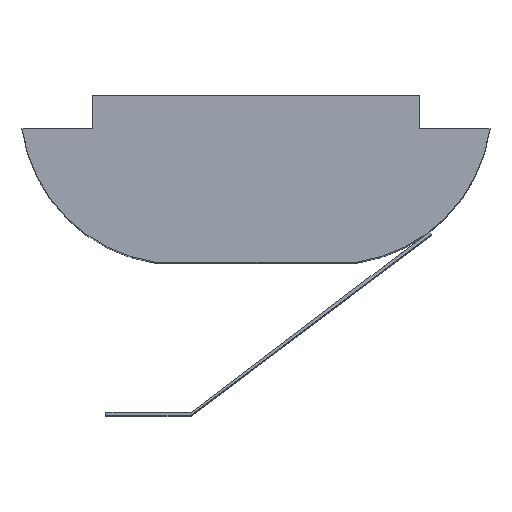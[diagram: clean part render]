
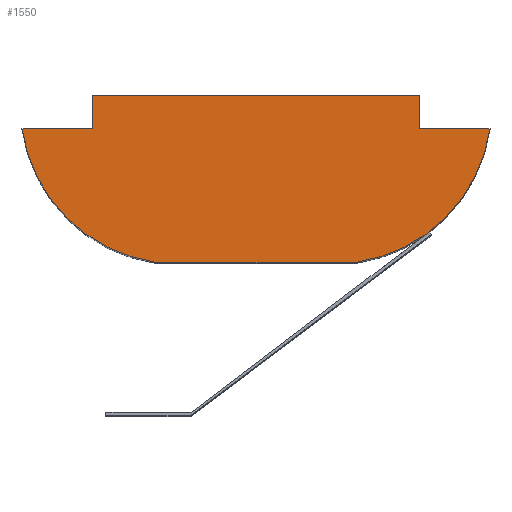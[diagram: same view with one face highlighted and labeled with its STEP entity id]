
A CAD part, top view. The second image highlights one B-rep face of the part: STEP entity #1550.
In plain terms, the highlighted planar face has unit normal (0, 0, 1).
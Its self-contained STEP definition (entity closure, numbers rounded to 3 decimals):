
#16 = VERTEX_POINT ( 'NONE', #1575 ) ;
#43 = EDGE_CURVE ( 'NONE', #1197, #252, #942, .T. ) ;
#44 = VECTOR ( 'NONE', #194, 1000. ) ;
#47 = DIRECTION ( 'NONE',  ( 0., 0., -1. ) ) ;
#105 = CIRCLE ( 'NONE', #1211, 4.722 ) ;
#127 = VECTOR ( 'NONE', #1261, 1000. ) ;
#137 = EDGE_CURVE ( 'NONE', #16, #252, #1418, .T. ) ;
#194 = DIRECTION ( 'NONE',  ( 1., 0., 0. ) ) ;
#232 = CARTESIAN_POINT ( 'NONE',  ( 4.9, -1., 10. ) ) ;
#243 = CARTESIAN_POINT ( 'NONE',  ( 2.326, -0.326, 10. ) ) ;
#252 = VERTEX_POINT ( 'NONE', #372 ) ;
#310 = DIRECTION ( 'NONE',  ( -1., 0., 0. ) ) ;
#315 = ORIENTED_EDGE ( 'NONE', *, *, #1122, .F. ) ;
#358 = ORIENTED_EDGE ( 'NONE', *, *, #574, .T. ) ;
#372 = CARTESIAN_POINT ( 'NONE',  ( 3., -5., 10. ) ) ;
#398 = CARTESIAN_POINT ( 'NONE',  ( 4.9, -1., 10. ) ) ;
#441 = ORIENTED_EDGE ( 'NONE', *, *, #1557, .T. ) ;
#446 = PLANE ( 'NONE',  #1057 ) ;
#516 = CARTESIAN_POINT ( 'NONE',  ( 4.9, 0., 10. ) ) ;
#550 = ORIENTED_EDGE ( 'NONE', *, *, #814, .T. ) ;
#560 = CARTESIAN_POINT ( 'NONE',  ( -7., -1., 10. ) ) ;
#567 = AXIS2_PLACEMENT_3D ( 'NONE', #780, #582, #753 ) ;
#574 = EDGE_CURVE ( 'NONE', #1174, #1068, #1517, .T. ) ;
#582 = DIRECTION ( 'NONE',  ( 0., 0., -1. ) ) ;
#597 = ORIENTED_EDGE ( 'NONE', *, *, #43, .F. ) ;
#598 = ORIENTED_EDGE ( 'NONE', *, *, #137, .T. ) ;
#603 = LINE ( 'NONE', #398, #44 ) ;
#606 = DIRECTION ( 'NONE',  ( 1., 0., 0. ) ) ;
#715 = LINE ( 'NONE', #516, #787 ) ;
#753 = DIRECTION ( 'NONE',  ( -1., 0., 0. ) ) ;
#761 = EDGE_LOOP ( 'NONE', ( #1780, #1119, #358, #550, #441, #598, #597, #315 ) ) ;
#780 = CARTESIAN_POINT ( 'NONE',  ( 2.326, -0.326, 10. ) ) ;
#787 = VECTOR ( 'NONE', #310, 1000. ) ;
#806 = DIRECTION ( 'NONE',  ( 0., 0., 1. ) ) ;
#814 = EDGE_CURVE ( 'NONE', #1068, #1603, #1652, .T. ) ;
#942 = CIRCLE ( 'NONE', #567, 4.722 ) ;
#950 = EDGE_CURVE ( 'NONE', #1622, #1174, #715, .T. ) ;
#959 = CARTESIAN_POINT ( 'NONE',  ( 4.9, 0., 10. ) ) ;
#1003 = CARTESIAN_POINT ( 'NONE',  ( -2.326, -0.326, 10. ) ) ;
#1010 = DIRECTION ( 'NONE',  ( 1., 0., 0. ) ) ;
#1057 = AXIS2_PLACEMENT_3D ( 'NONE', #243, #47, #1799 ) ;
#1068 = VERTEX_POINT ( 'NONE', #1343 ) ;
#1119 = ORIENTED_EDGE ( 'NONE', *, *, #950, .T. ) ;
#1122 = EDGE_CURVE ( 'NONE', #1467, #1197, #603, .T. ) ;
#1127 = DIRECTION ( 'NONE',  ( 0., -1., 0. ) ) ;
#1174 = VERTEX_POINT ( 'NONE', #1946 ) ;
#1197 = VERTEX_POINT ( 'NONE', #1860 ) ;
#1202 = VECTOR ( 'NONE', #1010, 1000. ) ;
#1211 = AXIS2_PLACEMENT_3D ( 'NONE', #1003, #806, #606 ) ;
#1214 = CARTESIAN_POINT ( 'NONE',  ( -3., -5., 10. ) ) ;
#1248 = VECTOR ( 'NONE', #1127, 1000. ) ;
#1261 = DIRECTION ( 'NONE',  ( -1., 0., 0. ) ) ;
#1273 = VECTOR ( 'NONE', #1419, 1000. ) ;
#1326 = CARTESIAN_POINT ( 'NONE',  ( -4.9, 0., 10. ) ) ;
#1343 = CARTESIAN_POINT ( 'NONE',  ( -4.9, -1., 10. ) ) ;
#1418 = LINE ( 'NONE', #1214, #1202 ) ;
#1419 = DIRECTION ( 'NONE',  ( 0., -1., 0. ) ) ;
#1457 = CARTESIAN_POINT ( 'NONE',  ( -4.9, -1., 10. ) ) ;
#1467 = VERTEX_POINT ( 'NONE', #232 ) ;
#1517 = LINE ( 'NONE', #1326, #1248 ) ;
#1550 = ADVANCED_FACE ( 'NONE', ( #1746 ), #446, .F. ) ;
#1557 = EDGE_CURVE ( 'NONE', #1603, #16, #105, .T. ) ;
#1575 = CARTESIAN_POINT ( 'NONE',  ( -3., -5., 10. ) ) ;
#1603 = VERTEX_POINT ( 'NONE', #560 ) ;
#1608 = CARTESIAN_POINT ( 'NONE',  ( 4.9, 0., 10. ) ) ;
#1622 = VERTEX_POINT ( 'NONE', #959 ) ;
#1652 = LINE ( 'NONE', #1457, #127 ) ;
#1746 = FACE_OUTER_BOUND ( 'NONE', #761, .T. ) ;
#1780 = ORIENTED_EDGE ( 'NONE', *, *, #1845, .F. ) ;
#1799 = DIRECTION ( 'NONE',  ( -1., 0., 0. ) ) ;
#1808 = LINE ( 'NONE', #1608, #1273 ) ;
#1845 = EDGE_CURVE ( 'NONE', #1622, #1467, #1808, .T. ) ;
#1860 = CARTESIAN_POINT ( 'NONE',  ( 7., -1., 10. ) ) ;
#1946 = CARTESIAN_POINT ( 'NONE',  ( -4.9, 0., 10. ) ) ;
